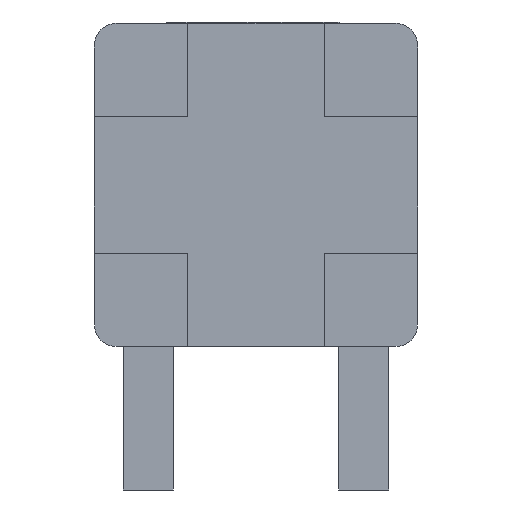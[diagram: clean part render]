
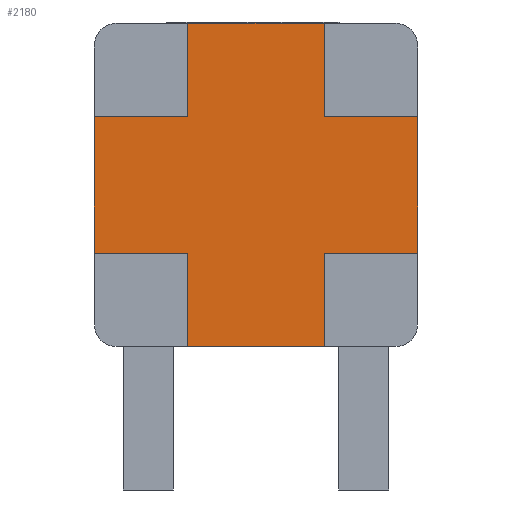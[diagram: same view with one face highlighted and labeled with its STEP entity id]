
A CAD part, front view. The second image highlights one B-rep face of the part: STEP entity #2180.
In plain terms, the highlighted planar face has unit normal (0, -1, 0).
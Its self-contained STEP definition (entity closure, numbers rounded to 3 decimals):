
#370=DIRECTION('',(0.,0.,1.));
#371=VECTOR('',#370,1.9);
#372=CARTESIAN_POINT('',(-2.25,0.2,-0.95));
#373=LINE('',#372,#371);
#374=DIRECTION('',(1.,0.,0.));
#375=VECTOR('',#374,1.9);
#376=CARTESIAN_POINT('',(-0.95,0.2,2.25));
#377=LINE('',#376,#375);
#378=DIRECTION('',(0.,0.,-1.));
#379=VECTOR('',#378,1.3);
#380=CARTESIAN_POINT('',(0.95,0.2,2.25));
#381=LINE('',#380,#379);
#382=DIRECTION('',(1.,0.,0.));
#383=VECTOR('',#382,1.3);
#384=CARTESIAN_POINT('',(0.95,0.2,0.95));
#385=LINE('',#384,#383);
#386=DIRECTION('',(0.,0.,-1.));
#387=VECTOR('',#386,1.9);
#388=CARTESIAN_POINT('',(2.25,0.2,0.95));
#389=LINE('',#388,#387);
#390=DIRECTION('',(0.,0.,-1.));
#391=VECTOR('',#390,1.3);
#392=CARTESIAN_POINT('',(0.95,0.2,-0.95));
#393=LINE('',#392,#391);
#394=DIRECTION('',(-1.,0.,0.));
#395=VECTOR('',#394,1.9);
#396=CARTESIAN_POINT('',(0.95,0.2,-2.25));
#397=LINE('',#396,#395);
#398=DIRECTION('',(-1.,0.,0.));
#399=VECTOR('',#398,1.3);
#400=CARTESIAN_POINT('',(-0.95,0.2,0.95));
#401=LINE('',#400,#399);
#431=DIRECTION('',(0.,0.,-1.));
#432=VECTOR('',#431,1.3);
#433=CARTESIAN_POINT('',(-0.95,0.2,2.25));
#434=LINE('',#433,#432);
#447=DIRECTION('',(1.,0.,0.));
#448=VECTOR('',#447,1.3);
#449=CARTESIAN_POINT('',(0.95,0.2,-0.95));
#450=LINE('',#449,#448);
#455=DIRECTION('',(0.,0.,-1.));
#456=VECTOR('',#455,1.3);
#457=CARTESIAN_POINT('',(-0.95,0.2,-0.95));
#458=LINE('',#457,#456);
#488=DIRECTION('',(1.,0.,0.));
#489=VECTOR('',#488,1.3);
#490=CARTESIAN_POINT('',(-2.25,0.2,-0.95));
#491=LINE('',#490,#489);
#1381=CARTESIAN_POINT('',(0.95,0.2,-2.25));
#1382=CARTESIAN_POINT('',(-0.95,0.2,-2.25));
#1383=VERTEX_POINT('',#1381);
#1384=VERTEX_POINT('',#1382);
#1395=CARTESIAN_POINT('',(-2.25,0.2,-0.95));
#1396=CARTESIAN_POINT('',(-2.25,0.2,0.95));
#1397=VERTEX_POINT('',#1395);
#1398=VERTEX_POINT('',#1396);
#1403=CARTESIAN_POINT('',(-0.95,0.2,2.25));
#1404=CARTESIAN_POINT('',(0.95,0.2,2.25));
#1405=VERTEX_POINT('',#1403);
#1406=VERTEX_POINT('',#1404);
#1411=CARTESIAN_POINT('',(0.95,0.2,0.95));
#1412=VERTEX_POINT('',#1411);
#1417=CARTESIAN_POINT('',(2.25,0.2,0.95));
#1418=CARTESIAN_POINT('',(2.25,0.2,-0.95));
#1419=VERTEX_POINT('',#1417);
#1420=VERTEX_POINT('',#1418);
#1423=CARTESIAN_POINT('',(0.95,0.2,-0.95));
#1424=VERTEX_POINT('',#1423);
#1425=CARTESIAN_POINT('',(-0.95,0.2,0.95));
#1426=VERTEX_POINT('',#1425);
#1427=CARTESIAN_POINT('',(-0.95,0.2,-0.95));
#1428=VERTEX_POINT('',#1427);
#2156=CARTESIAN_POINT('',(0.,0.2,0.));
#2157=DIRECTION('',(0.,1.,0.));
#2158=DIRECTION('',(1.,0.,0.));
#2159=AXIS2_PLACEMENT_3D('',#2156,#2157,#2158);
#2160=PLANE('',#2159);
#2161=ORIENTED_EDGE('',*,*,#1903,.T.);
#2163=ORIENTED_EDGE('',*,*,#2162,.F.);
#2165=ORIENTED_EDGE('',*,*,#2164,.F.);
#2166=ORIENTED_EDGE('',*,*,#1937,.T.);
#2167=ORIENTED_EDGE('',*,*,#2074,.T.);
#2168=ORIENTED_EDGE('',*,*,#2088,.T.);
#2169=ORIENTED_EDGE('',*,*,#2107,.T.);
#2171=ORIENTED_EDGE('',*,*,#2170,.F.);
#2172=ORIENTED_EDGE('',*,*,#2149,.T.);
#2173=ORIENTED_EDGE('',*,*,#1847,.T.);
#2175=ORIENTED_EDGE('',*,*,#2174,.F.);
#2177=ORIENTED_EDGE('',*,*,#2176,.F.);
#2178=EDGE_LOOP('',(#2161,#2163,#2165,#2166,#2167,#2168,#2169,#2171,#2172,#2173,
#2175,#2177));
#2179=FACE_OUTER_BOUND('',#2178,.F.);
#1847=EDGE_CURVE('',#1383,#1384,#397,.T.);
#1903=EDGE_CURVE('',#1397,#1398,#373,.T.);
#1937=EDGE_CURVE('',#1405,#1406,#377,.T.);
#2074=EDGE_CURVE('',#1406,#1412,#381,.T.);
#2088=EDGE_CURVE('',#1412,#1419,#385,.T.);
#2107=EDGE_CURVE('',#1419,#1420,#389,.T.);
#2149=EDGE_CURVE('',#1424,#1383,#393,.T.);
#2162=EDGE_CURVE('',#1426,#1398,#401,.T.);
#2164=EDGE_CURVE('',#1405,#1426,#434,.T.);
#2170=EDGE_CURVE('',#1424,#1420,#450,.T.);
#2174=EDGE_CURVE('',#1428,#1384,#458,.T.);
#2176=EDGE_CURVE('',#1397,#1428,#491,.T.);
#2180=ADVANCED_FACE('',(#2179),#2160,.F.);
